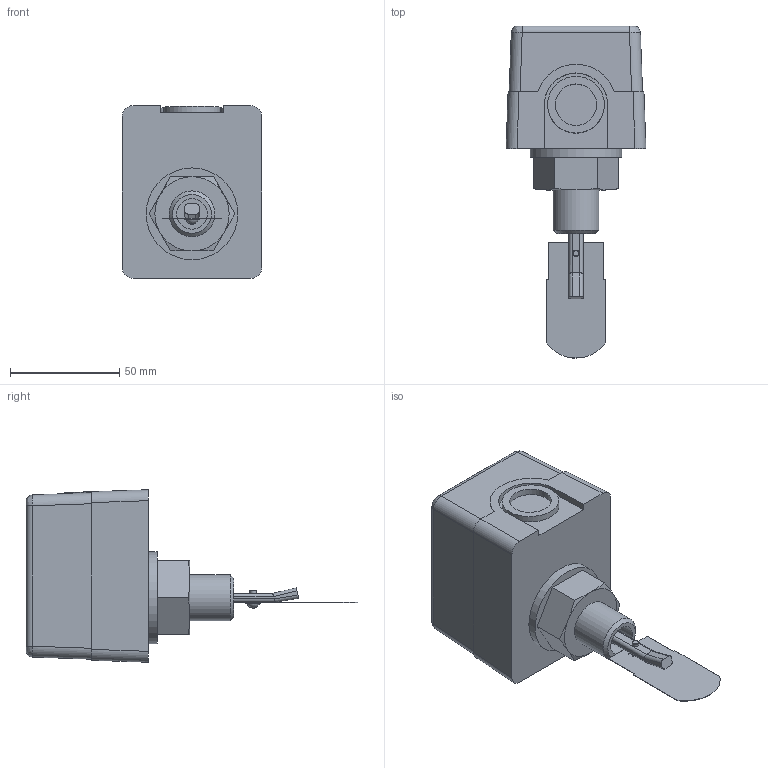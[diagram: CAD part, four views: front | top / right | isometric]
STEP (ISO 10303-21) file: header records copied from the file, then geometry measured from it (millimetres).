
FILE_DESCRIPTION(/* description */ ('РП-1-R1/2 Лопасть 53'),/* implementation_level */ '2;1');
FILE_NAME(/* name */ 'D:\STEP\РП\РП-1-R1_2 Лопасть 53.stp',/* time_stamp */ '2023-05-10T12:39:52+03:00',/* author */ ('Tech'),/* organization */ (''),/* preprocessor_version */ 'ST-DEVELOPER v18.1',/* originating_system */ 'Autodesk Inventor 2021',/* authorisation */ '');
FILE_SCHEMA (('AUTOMOTIVE_DESIGN { 1 0 10303 214 3 1 1 }'));
Length unit declared in the file: millimetre
Products named in the file (1): РП-1-R1_2 Лопасть 
53
Bounding box: 64 x 151.94 x 79 mm (x, y, z)
Volume: 283356.6 mm3; surface area: 34205 mm2
Topology: 4 solids, 4 shells, 197 faces, 507 edges, 338 vertices
Faces by surface type: plane 117, cylinder 65, cone 9, bspline 4, torus 1, sphere 1
Full cylindrical faces by diameter (mm): 2.584 x1, 3 x2, 3.2 x1, 4.5 x1, 5.115 x1, 5.5 x1, 7 x1, 14 x1, 19 x1, 20.955 x1, 26 x1, 42 x1
Entity records: 6214 total; most frequent: CARTESIAN_POINT 1198, DIRECTION 1050, ORIENTED_EDGE 1012, EDGE_CURVE 506, AXIS2_PLACEMENT_3D 370, VERTEX_POINT 338, LINE 310, VECTOR 310
